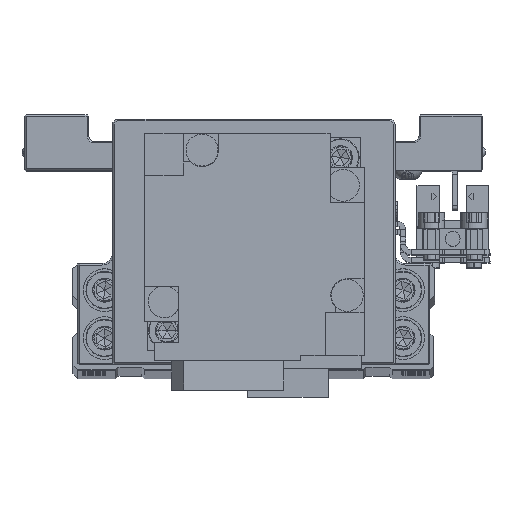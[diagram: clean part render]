
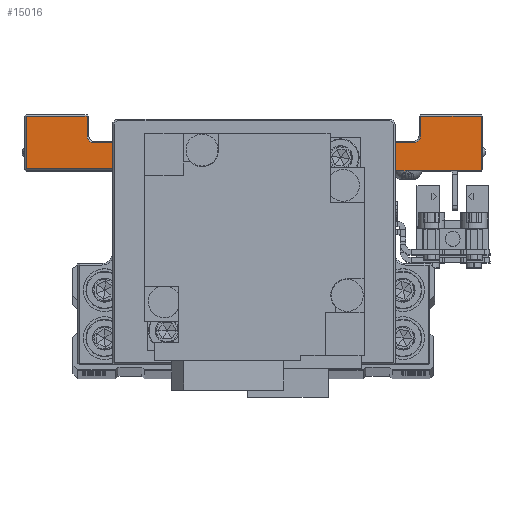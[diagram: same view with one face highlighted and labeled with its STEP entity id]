
A CAD part, top view. The second image highlights one B-rep face of the part: STEP entity #15016.
In plain terms, the highlighted planar face has unit normal (0, 0, 1) as drawn and (1, 0, 0) by its records, which use the part's own axes.
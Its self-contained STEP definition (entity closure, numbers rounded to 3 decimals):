
#16 = DIRECTION ( 'NONE',  ( -1., 0., 0. ) ) ;
#592 = EDGE_CURVE ( 'NONE', #21175, #33215, #29831, .T. ) ;
#651 = ORIENTED_EDGE ( 'NONE', *, *, #21439, .T. ) ;
#853 = ORIENTED_EDGE ( 'NONE', *, *, #31162, .T. ) ;
#923 = LINE ( 'NONE', #12885, #25870 ) ;
#1272 = VERTEX_POINT ( 'NONE', #22316 ) ;
#1599 = EDGE_CURVE ( 'NONE', #34035, #5047, #33445, .T. ) ;
#1639 = EDGE_CURVE ( 'NONE', #9390, #29948, #923, .T. ) ;
#1755 = VERTEX_POINT ( 'NONE', #31460 ) ;
#2101 = EDGE_LOOP ( 'NONE', ( #32065, #853, #12763, #21309, #651, #32000, #37042, #20067, #38035, #7718, #20884, #21755, #20664, #23824 ) ) ;
#2423 = DIRECTION ( 'NONE',  ( 0., -1., 0. ) ) ;
#2484 = CARTESIAN_POINT ( 'NONE',  ( 45., 14., -30. ) ) ;
#2973 = FACE_OUTER_BOUND ( 'NONE', #2101, .T. ) ;
#3001 = CARTESIAN_POINT ( 'NONE',  ( 45., 7.5, -19.7 ) ) ;
#3643 = CARTESIAN_POINT ( 'NONE',  ( 45., -8.2, -19.7 ) ) ;
#4407 = CARTESIAN_POINT ( 'NONE',  ( 45., 7.8, 19.7 ) ) ;
#4559 = DIRECTION ( 'NONE',  ( 0., 0., 1. ) ) ;
#4595 = LINE ( 'NONE', #16553, #9394 ) ;
#4958 = LINE ( 'NONE', #16902, #15500 ) ;
#5047 = VERTEX_POINT ( 'NONE', #20438 ) ;
#6244 = EDGE_CURVE ( 'NONE', #9745, #31059, #36522, .T. ) ;
#6623 = CARTESIAN_POINT ( 'NONE',  ( 45., 7.5, 31.3 ) ) ;
#6794 = DIRECTION ( 'NONE',  ( 0., 1., 0. ) ) ;
#7013 = VERTEX_POINT ( 'NONE', #35061 ) ;
#7718 = ORIENTED_EDGE ( 'NONE', *, *, #32946, .T. ) ;
#7743 = EDGE_CURVE ( 'NONE', #7013, #23276, #4595, .T. ) ;
#8308 = DIRECTION ( 'NONE',  ( 0., -1., 0. ) ) ;
#8797 = CARTESIAN_POINT ( 'NONE',  ( 45., 17.7, 42.7 ) ) ;
#9390 = VERTEX_POINT ( 'NONE', #27384 ) ;
#9394 = VECTOR ( 'NONE', #28489, 1000. ) ;
#9473 = CARTESIAN_POINT ( 'NONE',  ( 45., -8.2, -20. ) ) ;
#9713 = CARTESIAN_POINT ( 'NONE',  ( 45., 7.8, 20. ) ) ;
#9745 = VERTEX_POINT ( 'NONE', #17554 ) ;
#10133 = EDGE_CURVE ( 'NONE', #27546, #9745, #23173, .T. ) ;
#10479 = VECTOR ( 'NONE', #8308, 1000. ) ;
#11049 = AXIS2_PLACEMENT_3D ( 'NONE', #2484, #14440, #26375 ) ;
#11074 = DIRECTION ( 'NONE',  ( 0., 0., -1. ) ) ;
#11081 = VECTOR ( 'NONE', #11074, 1000. ) ;
#11234 = DIRECTION ( 'NONE',  ( 0., -1., 0. ) ) ;
#11935 = VECTOR ( 'NONE', #21398, 1000. ) ;
#11978 = DIRECTION ( 'NONE',  ( 0., 0., 1. ) ) ;
#12175 = CARTESIAN_POINT ( 'NONE',  ( 45., 17.7, -31.3 ) ) ;
#12763 = ORIENTED_EDGE ( 'NONE', *, *, #35777, .T. ) ;
#12885 = CARTESIAN_POINT ( 'NONE',  ( 45., 17.7, -20. ) ) ;
#13948 = CARTESIAN_POINT ( 'NONE',  ( 45., 7.5, -19.7 ) ) ;
#14020 = VECTOR ( 'NONE', #11234, 1000. ) ;
#14440 = DIRECTION ( 'NONE',  ( -1., 0., 0. ) ) ;
#14933 = PLANE ( 'NONE',  #19036 ) ;
#14955 = DIRECTION ( 'NONE',  ( 0., 1., 0. ) ) ;
#15016 = ADVANCED_FACE ( 'NONE', ( #2973 ), #14933, .F. ) ;
#15500 = VECTOR ( 'NONE', #28834, 1000. ) ;
#16095 = VECTOR ( 'NONE', #14955, 1000. ) ;
#16553 = CARTESIAN_POINT ( 'NONE',  ( 45., 12.7, 30. ) ) ;
#16775 = EDGE_CURVE ( 'NONE', #31059, #1272, #26114, .T. ) ;
#16902 = CARTESIAN_POINT ( 'NONE',  ( 45., 17.7, -20. ) ) ;
#17322 = LINE ( 'NONE', #29262, #26641 ) ;
#17554 = CARTESIAN_POINT ( 'NONE',  ( 45., 7.8, 42.7 ) ) ;
#17995 = AXIS2_PLACEMENT_3D ( 'NONE', #19430, #31377, #4559 ) ;
#18572 = DIRECTION ( 'NONE',  ( 0., 1., 0. ) ) ;
#19036 = AXIS2_PLACEMENT_3D ( 'NONE', #26868, #16, #11978 ) ;
#19430 = CARTESIAN_POINT ( 'NONE',  ( 45., 14., 30. ) ) ;
#20067 = ORIENTED_EDGE ( 'NONE', *, *, #31583, .T. ) ;
#20438 = CARTESIAN_POINT ( 'NONE',  ( 45., 17.7, 31.3 ) ) ;
#20664 = ORIENTED_EDGE ( 'NONE', *, *, #16775, .T. ) ;
#20884 = ORIENTED_EDGE ( 'NONE', *, *, #10133, .T. ) ;
#21175 = VERTEX_POINT ( 'NONE', #3643 ) ;
#21309 = ORIENTED_EDGE ( 'NONE', *, *, #1639, .T. ) ;
#21398 = DIRECTION ( 'NONE',  ( 0., 0., -1. ) ) ;
#21439 = EDGE_CURVE ( 'NONE', #29948, #29176, #17322, .T. ) ;
#21640 = DIRECTION ( 'NONE',  ( 0., 0., -1. ) ) ;
#21673 = LINE ( 'NONE', #33618, #33159 ) ;
#21755 = ORIENTED_EDGE ( 'NONE', *, *, #6244, .T. ) ;
#22316 = CARTESIAN_POINT ( 'NONE',  ( 45., -8.2, 19.7 ) ) ;
#23173 = LINE ( 'NONE', #35117, #10479 ) ;
#23276 = VERTEX_POINT ( 'NONE', #23537 ) ;
#23537 = CARTESIAN_POINT ( 'NONE',  ( 45., 12.7, 30. ) ) ;
#23824 = ORIENTED_EDGE ( 'NONE', *, *, #26755, .T. ) ;
#24435 = CARTESIAN_POINT ( 'NONE',  ( 45., 14., -31.3 ) ) ;
#24818 = DIRECTION ( 'NONE',  ( 0., 0., 1. ) ) ;
#25870 = VECTOR ( 'NONE', #24818, 1000. ) ;
#25945 = LINE ( 'NONE', #37889, #11081 ) ;
#26114 = LINE ( 'NONE', #38049, #14020 ) ;
#26375 = DIRECTION ( 'NONE',  ( 0., 0., 1. ) ) ;
#26641 = VECTOR ( 'NONE', #2423, 1000. ) ;
#26755 = EDGE_CURVE ( 'NONE', #1272, #21175, #36284, .T. ) ;
#26868 = CARTESIAN_POINT ( 'NONE',  ( 45., 7.5, -20. ) ) ;
#27308 = VECTOR ( 'NONE', #21640, 1000. ) ;
#27384 = CARTESIAN_POINT ( 'NONE',  ( 45., 17.7, -42.7 ) ) ;
#27546 = VERTEX_POINT ( 'NONE', #8797 ) ;
#27934 = CIRCLE ( 'NONE', #11049, 1.3 ) ;
#28489 = DIRECTION ( 'NONE',  ( 0., 0., 1. ) ) ;
#28514 = CARTESIAN_POINT ( 'NONE',  ( 45., 14., 31.3 ) ) ;
#28834 = DIRECTION ( 'NONE',  ( 0., 0., 1. ) ) ;
#29176 = VERTEX_POINT ( 'NONE', #24435 ) ;
#29262 = CARTESIAN_POINT ( 'NONE',  ( 45., 7.5, -31.3 ) ) ;
#29831 = LINE ( 'NONE', #3001, #16095 ) ;
#29948 = VERTEX_POINT ( 'NONE', #12175 ) ;
#30766 = EDGE_CURVE ( 'NONE', #29176, #7013, #27934, .T. ) ;
#31059 = VERTEX_POINT ( 'NONE', #4407 ) ;
#31162 = EDGE_CURVE ( 'NONE', #33215, #1755, #25945, .T. ) ;
#31377 = DIRECTION ( 'NONE',  ( -1., 0., 0. ) ) ;
#31460 = CARTESIAN_POINT ( 'NONE',  ( 45., 7.5, -42.7 ) ) ;
#31583 = EDGE_CURVE ( 'NONE', #23276, #34035, #34855, .T. ) ;
#32000 = ORIENTED_EDGE ( 'NONE', *, *, #30766, .T. ) ;
#32065 = ORIENTED_EDGE ( 'NONE', *, *, #592, .T. ) ;
#32756 = VECTOR ( 'NONE', #18572, 1000. ) ;
#32946 = EDGE_CURVE ( 'NONE', #5047, #27546, #4958, .T. ) ;
#33159 = VECTOR ( 'NONE', #6794, 1000. ) ;
#33215 = VERTEX_POINT ( 'NONE', #13948 ) ;
#33445 = LINE ( 'NONE', #6623, #32756 ) ;
#33618 = CARTESIAN_POINT ( 'NONE',  ( 45., 7.5, -42.7 ) ) ;
#34035 = VERTEX_POINT ( 'NONE', #28514 ) ;
#34855 = CIRCLE ( 'NONE', #17995, 1.3 ) ;
#35061 = CARTESIAN_POINT ( 'NONE',  ( 45., 12.7, -30. ) ) ;
#35117 = CARTESIAN_POINT ( 'NONE',  ( 45., 7.5, 42.7 ) ) ;
#35777 = EDGE_CURVE ( 'NONE', #1755, #9390, #21673, .T. ) ;
#36284 = LINE ( 'NONE', #9473, #11935 ) ;
#36522 = LINE ( 'NONE', #9713, #27308 ) ;
#37042 = ORIENTED_EDGE ( 'NONE', *, *, #7743, .T. ) ;
#37889 = CARTESIAN_POINT ( 'NONE',  ( 45., 7.5, 43. ) ) ;
#38035 = ORIENTED_EDGE ( 'NONE', *, *, #1599, .T. ) ;
#38049 = CARTESIAN_POINT ( 'NONE',  ( 45., 7.5, 19.7 ) ) ;
